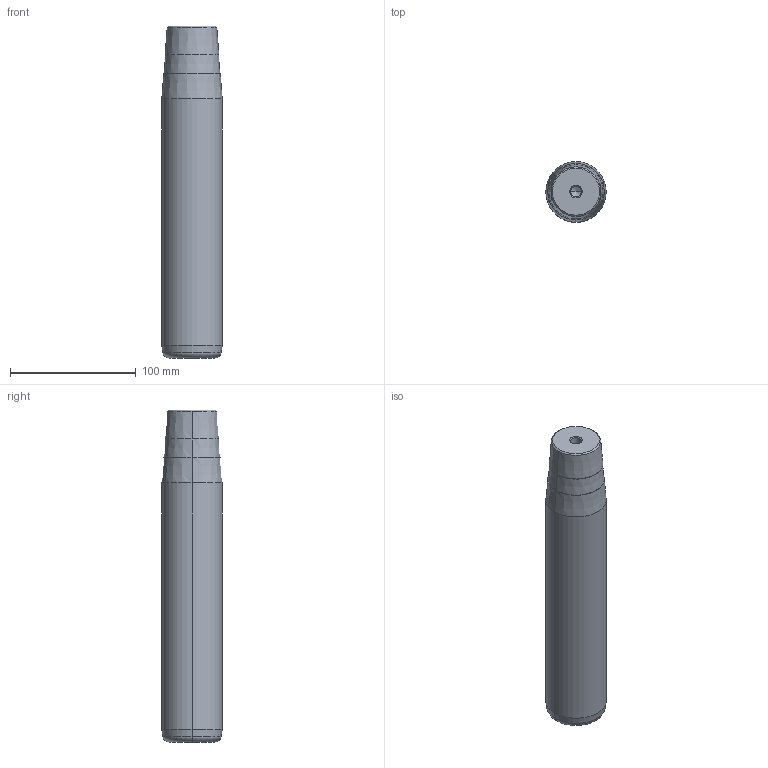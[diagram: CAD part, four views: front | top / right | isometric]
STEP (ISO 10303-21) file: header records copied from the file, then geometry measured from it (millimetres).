
FILE_DESCRIPTION(('CATIA V5 STEP Exchange'),'2;1');
FILE_NAME('C:\Users\Utente\Desktop\IO LAVORO\3D X SITO CF\X SITO\722\722-48x224x264.stp','2021-01-08T15:02:22+00:00',('none'),('none'),'CATIA Version 5 Release 20 GA (IN-10)','CATIA V5 STEP AP203','none');
FILE_SCHEMA(('CONFIG_CONTROL_DESIGN'));
Length unit declared in the file: millimetre
Products named in the file (1): 722-48x224x264
Bounding box: 48 x 48 x 264 mm (x, y, z)
Volume: 454895.3 mm3; surface area: 42945.1 mm2
Topology: 1 solids, 1 shells, 32 faces, 66 edges, 34 vertices
Faces by surface type: cone 22, cylinder 6, plane 2, torus 2
Entity records: 854 total; most frequent: CARTESIAN_POINT 175, DIRECTION 124, ORIENTED_EDGE 124, AXIS2_PLACEMENT_3D 65, EDGE_CURVE 62, EDGE_LOOP 34, VERTEX_POINT 34, ADVANCED_FACE 32
